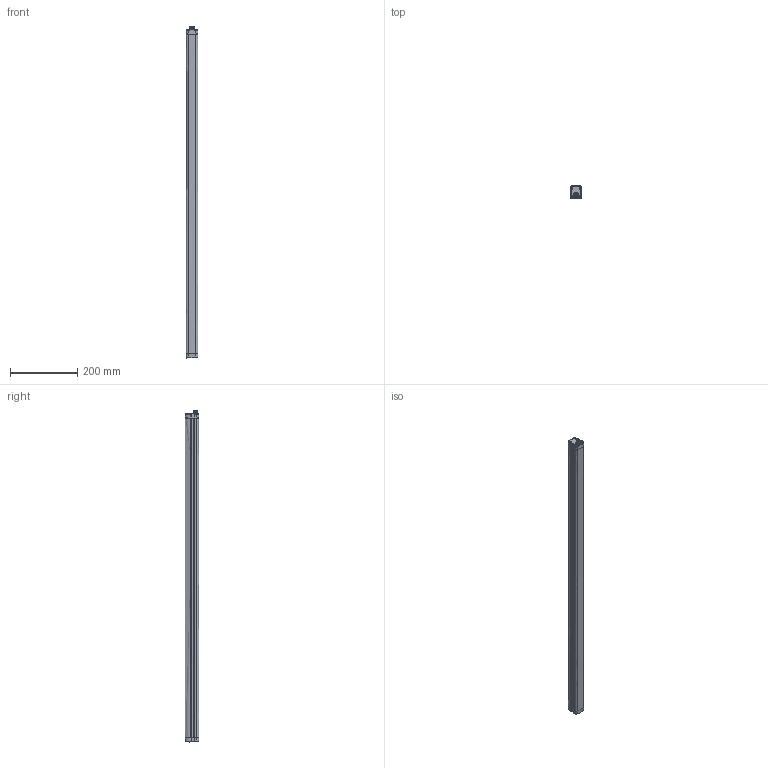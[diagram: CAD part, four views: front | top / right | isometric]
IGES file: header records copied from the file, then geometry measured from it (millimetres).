
Global section: file name: C:\Users\fguttadauro\OneDrive - Datalogic S.p.a\Desktop\AP036496_00-DS2-05-07-090-JV RX.igs; native system: NX V1926; preprocessor: SIEMENS PLM Software NX 1946; date: 20220408.155014; units: millimetre
Bounding box: 35 x 40.1 x 991 mm (x, y, z)
Surface area: 193548.7 mm2 (no closed solid volume)
Topology: 0 solids, 0 shells, 732 faces, 4377 edges, 4307 vertices
Faces by surface type: bspline 732
